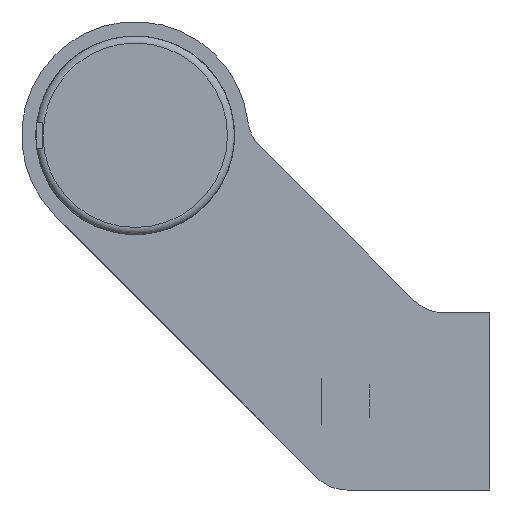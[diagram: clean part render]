
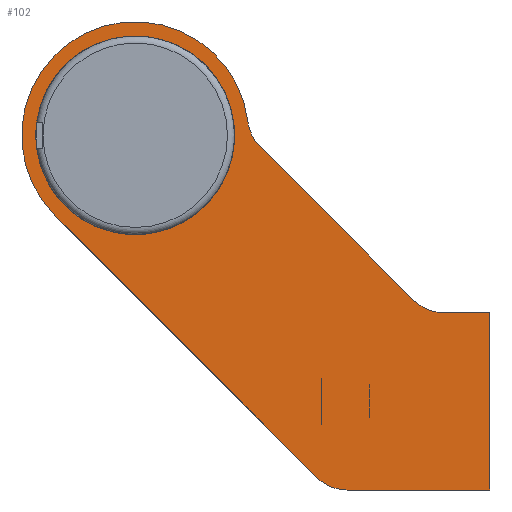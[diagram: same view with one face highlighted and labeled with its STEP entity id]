
A CAD part, left-side view. The second image highlights one B-rep face of the part: STEP entity #102.
In plain terms, the highlighted planar face has unit normal (-1, 0, 0).
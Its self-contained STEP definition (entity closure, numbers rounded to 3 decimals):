
#102 = ADVANCED_FACE( '', ( #191, #192 ), #193, .F. );
#191 = FACE_BOUND( '', #320, .T. );
#192 = FACE_OUTER_BOUND( '', #321, .T. );
#193 = PLANE( '', #322 );
#320 = EDGE_LOOP( '', ( #581 ) );
#321 = EDGE_LOOP( '', ( #582, #583, #584, #585, #586, #587, #588, #589, #590 ) );
#322 = AXIS2_PLACEMENT_3D( '', #591, #592, #593 );
#581 = ORIENTED_EDGE( '', *, *, #776, .T. );
#582 = ORIENTED_EDGE( '', *, *, #794, .F. );
#583 = ORIENTED_EDGE( '', *, *, #820, .F. );
#584 = ORIENTED_EDGE( '', *, *, #817, .F. );
#585 = ORIENTED_EDGE( '', *, *, #814, .F. );
#586 = ORIENTED_EDGE( '', *, *, #810, .F. );
#587 = ORIENTED_EDGE( '', *, *, #807, .T. );
#588 = ORIENTED_EDGE( '', *, *, #804, .F. );
#589 = ORIENTED_EDGE( '', *, *, #801, .T. );
#590 = ORIENTED_EDGE( '', *, *, #798, .F. );
#591 = CARTESIAN_POINT( '', ( -257., 50., 37.5 ) );
#592 = DIRECTION( '', ( 1., 0., 0. ) );
#593 = DIRECTION( '', ( 0., 0., -1. ) );
#776 = EDGE_CURVE( '', #900, #900, #901, .T. );
#794 = EDGE_CURVE( '', #931, #932, #933, .T. );
#798 = EDGE_CURVE( '', #932, #939, #940, .T. );
#801 = EDGE_CURVE( '', #944, #939, #945, .T. );
#804 = EDGE_CURVE( '', #944, #949, #950, .T. );
#807 = EDGE_CURVE( '', #954, #949, #955, .T. );
#810 = EDGE_CURVE( '', #954, #959, #960, .T. );
#814 = EDGE_CURVE( '', #959, #966, #967, .T. );
#817 = EDGE_CURVE( '', #966, #971, #972, .T. );
#820 = EDGE_CURVE( '', #971, #931, #976, .T. );
#900 = VERTEX_POINT( '', #1129 );
#901 = CIRCLE( '', #1130, 14. );
#931 = VERTEX_POINT( '', #1172 );
#932 = VERTEX_POINT( '', #1173 );
#933 = LINE( '', #1174, #1175 );
#939 = VERTEX_POINT( '', #1184 );
#940 = CIRCLE( '', #1185, 16. );
#944 = VERTEX_POINT( '', #1190 );
#945 = CIRCLE( '', #1191, 6. );
#949 = VERTEX_POINT( '', #1196 );
#950 = LINE( '', #1197, #1198 );
#954 = VERTEX_POINT( '', #1204 );
#955 = CIRCLE( '', #1205, 6. );
#959 = VERTEX_POINT( '', #1210 );
#960 = LINE( '', #1211, #1212 );
#966 = VERTEX_POINT( '', #1220 );
#967 = LINE( '', #1221, #1222 );
#971 = VERTEX_POINT( '', #1228 );
#972 = LINE( '', #1229, #1230 );
#976 = CIRCLE( '', #1236, 6. );
#1129 = CARTESIAN_POINT( '', ( -257., 50., 23.5 ) );
#1130 = AXIS2_PLACEMENT_3D( '', #1319, #1320, #1321 );
#1172 = CARTESIAN_POINT( '', ( -257., 24.385, -10.743 ) );
#1173 = CARTESIAN_POINT( '', ( -257., 61.314, 26.186 ) );
#1174 = CARTESIAN_POINT( '', ( -257., 24.385, -10.743 ) );
#1175 = VECTOR( '', #1360, 1000. );
#1184 = CARTESIAN_POINT( '', ( -257., 34.116, 39.424 ) );
#1185 = AXIS2_PLACEMENT_3D( '', #1364, #1365, #1366 );
#1190 = CARTESIAN_POINT( '', ( -257., 32.402, 35.902 ) );
#1191 = AXIS2_PLACEMENT_3D( '', #1371, #1372, #1373 );
#1196 = CARTESIAN_POINT( '', ( -257., 10.757, 14.257 ) );
#1197 = CARTESIAN_POINT( '', ( -257., 32.402, 35.902 ) );
#1198 = VECTOR( '', #1378, 1000. );
#1204 = CARTESIAN_POINT( '', ( -257., 6.515, 12.5 ) );
#1205 = AXIS2_PLACEMENT_3D( '', #1381, #1382, #1383 );
#1210 = CARTESIAN_POINT( '', ( -257., 0., 12.5 ) );
#1211 = CARTESIAN_POINT( '', ( -257., 6.515, 12.5 ) );
#1212 = VECTOR( '', #1388, 1000. );
#1220 = CARTESIAN_POINT( '', ( -257., 0., -12.5 ) );
#1221 = CARTESIAN_POINT( '', ( -257., 0., 12.5 ) );
#1222 = VECTOR( '', #1394, 1000. );
#1228 = CARTESIAN_POINT( '', ( -257., 20.142, -12.5 ) );
#1229 = CARTESIAN_POINT( '', ( -257., 0., -12.5 ) );
#1230 = VECTOR( '', #1397, 1000. );
#1236 = AXIS2_PLACEMENT_3D( '', #1400, #1401, #1402 );
#1319 = CARTESIAN_POINT( '', ( -257., 50., 37.5 ) );
#1320 = DIRECTION( '', ( 1., 0., 0. ) );
#1321 = DIRECTION( '', ( 0., 0., -1. ) );
#1360 = DIRECTION( '', ( 0., 0.707, 0.707 ) );
#1364 = CARTESIAN_POINT( '', ( -257., 50., 37.5 ) );
#1365 = DIRECTION( '', ( 1., 0., 0. ) );
#1366 = DIRECTION( '', ( 0., 0., -1. ) );
#1371 = CARTESIAN_POINT( '', ( -257., 28.16, 40.145 ) );
#1372 = DIRECTION( '', ( 1., 0., 0. ) );
#1373 = DIRECTION( '', ( 0., 0., -1. ) );
#1378 = DIRECTION( '', ( 0., -0.707, -0.707 ) );
#1381 = CARTESIAN_POINT( '', ( -257., 6.515, 18.5 ) );
#1382 = DIRECTION( '', ( 1., 0., 0. ) );
#1383 = DIRECTION( '', ( 0., 0., -1. ) );
#1388 = DIRECTION( '', ( 0., -1., 0. ) );
#1394 = DIRECTION( '', ( 0., 0., -1. ) );
#1397 = DIRECTION( '', ( 0., 1., 0. ) );
#1400 = CARTESIAN_POINT( '', ( -257., 20.142, -6.5 ) );
#1401 = DIRECTION( '', ( 1., 0., 0. ) );
#1402 = DIRECTION( '', ( 0., 0., -1. ) );
